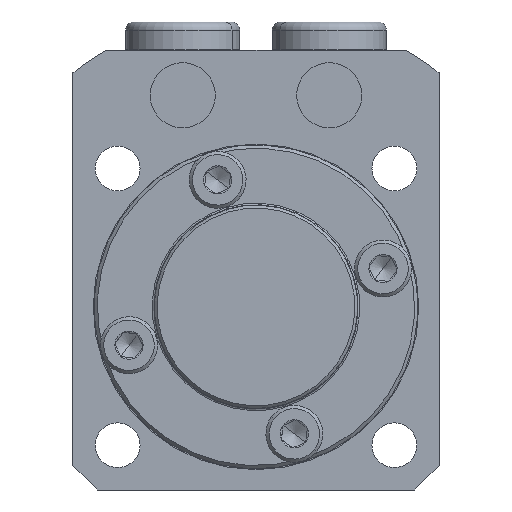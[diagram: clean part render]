
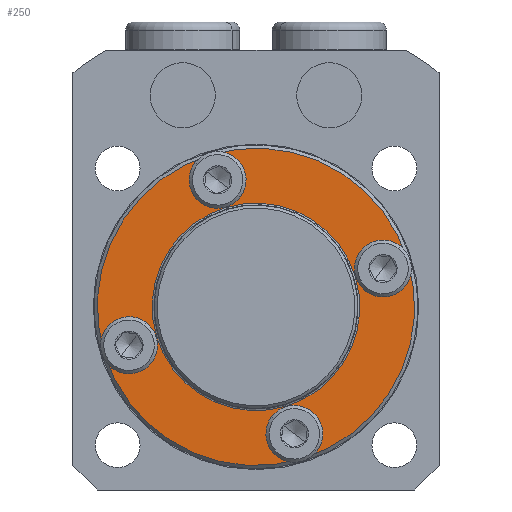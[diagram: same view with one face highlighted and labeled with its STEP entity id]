
A CAD part, front view. The second image highlights one B-rep face of the part: STEP entity #250.
In plain terms, the highlighted planar face has unit normal (0, -1, 0).
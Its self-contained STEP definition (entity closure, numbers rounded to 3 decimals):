
#8 = CIRCLE ( 'NONE', #283, 2.25 ) ;
#46 = CIRCLE ( 'NONE', #47, 2.25 ) ;
#47 = AXIS2_PLACEMENT_3D ( 'NONE', #1905, #1906, #1907 ) ;
#49 = CIRCLE ( 'NONE', #181, 2.25 ) ;
#57 = VERTEX_POINT ( 'NONE', #388 ) ;
#59 = VERTEX_POINT ( 'NONE', #390 ) ;
#66 = VERTEX_POINT ( 'NONE', #1521 ) ;
#67 = VERTEX_POINT ( 'NONE', #1522 ) ;
#77 = VERTEX_POINT ( 'NONE', #1532 ) ;
#78 = VERTEX_POINT ( 'NONE', #1533 ) ;
#81 = VERTEX_POINT ( 'NONE', #1536 ) ;
#82 = VERTEX_POINT ( 'NONE', #1537 ) ;
#85 = VERTEX_POINT ( 'NONE', #1540 ) ;
#86 = VERTEX_POINT ( 'NONE', #1541 ) ;
#89 = VERTEX_POINT ( 'NONE', #1544 ) ;
#90 = VERTEX_POINT ( 'NONE', #1545 ) ;
#181 = AXIS2_PLACEMENT_3D ( 'NONE', #1917, #1918, #1919 ) ;
#192 = AXIS2_PLACEMENT_3D ( 'NONE', #1841, #1842, #1843 ) ;
#197 = AXIS2_PLACEMENT_3D ( 'NONE', #1929, #1930, #1931 ) ;
#203 = EDGE_CURVE ( 'NONE', #57, #59, #5482, .T. ) ;
#214 = EDGE_CURVE ( 'NONE', #66, #67, #982, .T. ) ;
#224 = EDGE_CURVE ( 'NONE', #77, #78, #46, .T. ) ;
#228 = EDGE_CURVE ( 'NONE', #81, #82, #49, .T. ) ;
#232 = EDGE_CURVE ( 'NONE', #85, #86, #300, .T. ) ;
#236 = EDGE_CURVE ( 'NONE', #89, #90, #8, .T. ) ;
#250 = ADVANCED_FACE ( 'NONE', ( #1996, #1998, #2000, #2002, #1995, #1997 ), #2004, .F. ) ;
#282 = EDGE_CURVE ( 'NONE', #59, #57, #2357, .T. ) ;
#283 = AXIS2_PLACEMENT_3D ( 'NONE', #1943, #1944, #1945 ) ;
#300 = CIRCLE ( 'NONE', #197, 2.25 ) ;
#388 = CARTESIAN_POINT ( 'NONE',  ( 0., -4., -12.75 ) ) ;
#390 = CARTESIAN_POINT ( 'NONE',  ( 0., -4., 12.75 ) ) ;
#435 = ORIENTED_EDGE ( 'NONE', *, *, #282, .T. ) ;
#436 = ORIENTED_EDGE ( 'NONE', *, *, #203, .T. ) ;
#437 = ORIENTED_EDGE ( 'NONE', *, *, #984, .T. ) ;
#438 = ORIENTED_EDGE ( 'NONE', *, *, #214, .T. ) ;
#439 = ORIENTED_EDGE ( 'NONE', *, *, #985, .F. ) ;
#440 = ORIENTED_EDGE ( 'NONE', *, *, #224, .F. ) ;
#441 = ORIENTED_EDGE ( 'NONE', *, *, #986, .F. ) ;
#442 = ORIENTED_EDGE ( 'NONE', *, *, #228, .F. ) ;
#443 = ORIENTED_EDGE ( 'NONE', *, *, #987, .F. ) ;
#444 = ORIENTED_EDGE ( 'NONE', *, *, #232, .F. ) ;
#445 = ORIENTED_EDGE ( 'NONE', *, *, #988, .F. ) ;
#446 = ORIENTED_EDGE ( 'NONE', *, *, #236, .F. ) ;
#660 = EDGE_LOOP ( 'NONE', ( #435, #436 ) ) ;
#661 = EDGE_LOOP ( 'NONE', ( #445, #446 ) ) ;
#662 = EDGE_LOOP ( 'NONE', ( #443, #444 ) ) ;
#674 = EDGE_LOOP ( 'NONE', ( #437, #438 ) ) ;
#675 = EDGE_LOOP ( 'NONE', ( #441, #442 ) ) ;
#676 = EDGE_LOOP ( 'NONE', ( #439, #440 ) ) ;
#981 = AXIS2_PLACEMENT_3D ( 'NONE', #1875, #1876, #1877 ) ;
#982 = CIRCLE ( 'NONE', #981, 19.5 ) ;
#984 = EDGE_CURVE ( 'NONE', #67, #66, #2375, .T. ) ;
#985 = EDGE_CURVE ( 'NONE', #78, #77, #2368, .T. ) ;
#986 = EDGE_CURVE ( 'NONE', #82, #81, #2373, .T. ) ;
#987 = EDGE_CURVE ( 'NONE', #86, #85, #2371, .T. ) ;
#988 = EDGE_CURVE ( 'NONE', #90, #89, #2369, .T. ) ;
#1521 = CARTESIAN_POINT ( 'NONE',  ( 0., -4., -19.5 ) ) ;
#1522 = CARTESIAN_POINT ( 'NONE',  ( 0., -4., 19.5 ) ) ;
#1532 = CARTESIAN_POINT ( 'NONE',  ( 16.3, -4., 2.25 ) ) ;
#1533 = CARTESIAN_POINT ( 'NONE',  ( 16.3, -4., -2.25 ) ) ;
#1536 = CARTESIAN_POINT ( 'NONE',  ( 0., -4., -14.05 ) ) ;
#1537 = CARTESIAN_POINT ( 'NONE',  ( 0., -4., -18.55 ) ) ;
#1540 = CARTESIAN_POINT ( 'NONE',  ( -16.3, -4., 2.25 ) ) ;
#1541 = CARTESIAN_POINT ( 'NONE',  ( -16.3, -4., -2.25 ) ) ;
#1544 = CARTESIAN_POINT ( 'NONE',  ( 0., -4., 18.55 ) ) ;
#1545 = CARTESIAN_POINT ( 'NONE',  ( 0., -4., 14.05 ) ) ;
#1841 = CARTESIAN_POINT ( 'NONE',  ( 0., -4., 0. ) ) ;
#1842 = DIRECTION ( 'NONE',  ( 0., 1., 0. ) ) ;
#1843 = DIRECTION ( 'NONE',  ( 0., 0., 1. ) ) ;
#1875 = CARTESIAN_POINT ( 'NONE',  ( 0., -4., 0. ) ) ;
#1876 = DIRECTION ( 'NONE',  ( 0., -1., 0. ) ) ;
#1877 = DIRECTION ( 'NONE',  ( 0., 0., 1. ) ) ;
#1905 = CARTESIAN_POINT ( 'NONE',  ( 16.3, -4., 0. ) ) ;
#1906 = DIRECTION ( 'NONE',  ( 0., -1., 0. ) ) ;
#1907 = DIRECTION ( 'NONE',  ( -1., 0., 0. ) ) ;
#1917 = CARTESIAN_POINT ( 'NONE',  ( 0., -4., -16.3 ) ) ;
#1918 = DIRECTION ( 'NONE',  ( 0., -1., 0. ) ) ;
#1919 = DIRECTION ( 'NONE',  ( 0., 0., 1. ) ) ;
#1929 = CARTESIAN_POINT ( 'NONE',  ( -16.3, -4., 0. ) ) ;
#1930 = DIRECTION ( 'NONE',  ( 0., -1., 0. ) ) ;
#1931 = DIRECTION ( 'NONE',  ( 1., 0., 0. ) ) ;
#1943 = CARTESIAN_POINT ( 'NONE',  ( 0., -4., 16.3 ) ) ;
#1944 = DIRECTION ( 'NONE',  ( 0., -1., 0. ) ) ;
#1945 = DIRECTION ( 'NONE',  ( 0., 0., -1. ) ) ;
#1995 = FACE_BOUND ( 'NONE', #662, .T. ) ;
#1996 = FACE_BOUND ( 'NONE', #660, .T. ) ;
#1997 = FACE_BOUND ( 'NONE', #661, .T. ) ;
#1998 = FACE_OUTER_BOUND ( 'NONE', #674, .T. ) ;
#2000 = FACE_BOUND ( 'NONE', #676, .T. ) ;
#2001 = CARTESIAN_POINT ( 'NONE',  ( 0., -4., 0. ) ) ;
#2002 = FACE_BOUND ( 'NONE', #675, .T. ) ;
#2004 = PLANE ( 'NONE',  #2326 ) ;
#2005 = DIRECTION ( 'NONE',  ( 0., 1., 0. ) ) ;
#2006 = DIRECTION ( 'NONE',  ( 0., 0., 1. ) ) ;
#2158 = CARTESIAN_POINT ( 'NONE',  ( 0., -4., 0. ) ) ;
#2159 = DIRECTION ( 'NONE',  ( 0., 1., 0. ) ) ;
#2160 = DIRECTION ( 'NONE',  ( 0., 0., 1. ) ) ;
#2238 = CARTESIAN_POINT ( 'NONE',  ( 0., -4., 0. ) ) ;
#2239 = DIRECTION ( 'NONE',  ( 0., -1., 0. ) ) ;
#2240 = DIRECTION ( 'NONE',  ( 0., 0., 1. ) ) ;
#2241 = CARTESIAN_POINT ( 'NONE',  ( 16.3, -4., 0. ) ) ;
#2242 = DIRECTION ( 'NONE',  ( 0., -1., 0. ) ) ;
#2243 = DIRECTION ( 'NONE',  ( -1., 0., 0. ) ) ;
#2244 = CARTESIAN_POINT ( 'NONE',  ( 0., -4., -16.3 ) ) ;
#2245 = DIRECTION ( 'NONE',  ( 0., -1., 0. ) ) ;
#2246 = DIRECTION ( 'NONE',  ( 0., 0., 1. ) ) ;
#2247 = CARTESIAN_POINT ( 'NONE',  ( -16.3, -4., 0. ) ) ;
#2248 = DIRECTION ( 'NONE',  ( 0., -1., 0. ) ) ;
#2249 = DIRECTION ( 'NONE',  ( 1., 0., 0. ) ) ;
#2250 = CARTESIAN_POINT ( 'NONE',  ( 0., -4., 16.3 ) ) ;
#2251 = DIRECTION ( 'NONE',  ( 0., -1., 0. ) ) ;
#2252 = DIRECTION ( 'NONE',  ( 0., 0., -1. ) ) ;
#2326 = AXIS2_PLACEMENT_3D ( 'NONE', #2001, #2005, #2006 ) ;
#2346 = AXIS2_PLACEMENT_3D ( 'NONE', #2247, #2248, #2249 ) ;
#2357 = CIRCLE ( 'NONE', #2367, 12.75 ) ;
#2367 = AXIS2_PLACEMENT_3D ( 'NONE', #2158, #2159, #2160 ) ;
#2368 = CIRCLE ( 'NONE', #2372, 2.25 ) ;
#2369 = CIRCLE ( 'NONE', #2377, 2.25 ) ;
#2370 = AXIS2_PLACEMENT_3D ( 'NONE', #2244, #2245, #2246 ) ;
#2371 = CIRCLE ( 'NONE', #2346, 2.25 ) ;
#2372 = AXIS2_PLACEMENT_3D ( 'NONE', #2241, #2242, #2243 ) ;
#2373 = CIRCLE ( 'NONE', #2370, 2.25 ) ;
#2374 = AXIS2_PLACEMENT_3D ( 'NONE', #2238, #2239, #2240 ) ;
#2375 = CIRCLE ( 'NONE', #2374, 19.5 ) ;
#2377 = AXIS2_PLACEMENT_3D ( 'NONE', #2250, #2251, #2252 ) ;
#5482 = CIRCLE ( 'NONE', #192, 12.75 ) ;
